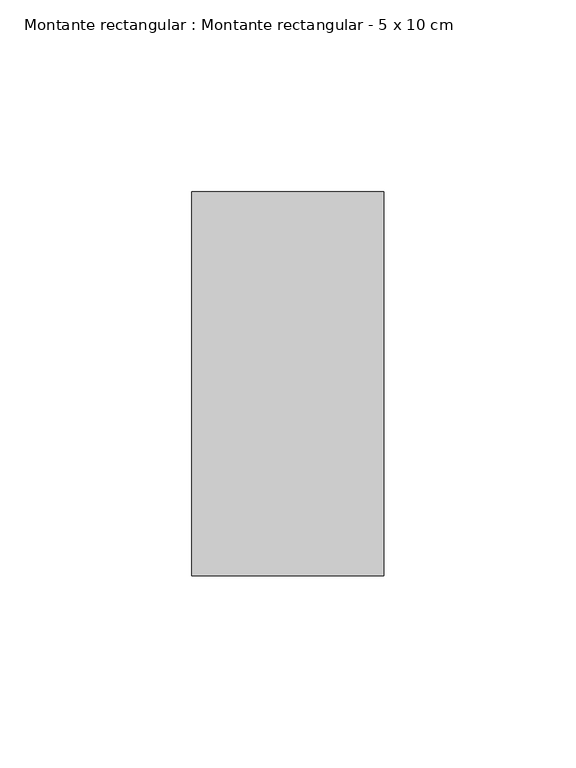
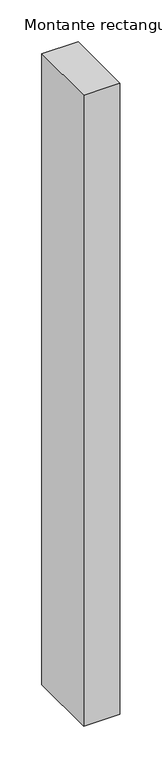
"""IFC4 building model written with IfcOpenShell, lengths in millimetres: member geometry, Montante rectangular : Montante rectangular - 5 x 10 cm."""

from ifc_helpers import new_model, si_unit, frame, origin, place, context, project, spatial, polyline, outline, extrude, source, transform, mapped, element, save


def montante_rectangular_montante_rectangular_5_x_10_cm_e2df6bc7(model_context):
    return source(origin(), model_context, "Body", "SweptSolid", [
        extrude(outline(polyline([(25.0, 50.0), (25.0, -50.0), (-25.0, -50.0), (-25.0, 50.0), (25.0, 50.0)])), frame((0.0, 0.0, -919.8281106), z_axis=(0.0, 0.0, 1.0), x_axis=(1.0, 0.0, 0.0)), (0.0, 0.0, 1.0), 919.8281106),
    ])


if __name__ == "__main__":
    model = new_model("IFC4")
    model_context = context("Model", 3, world=origin())
    ifc_project = project(units=[si_unit("LENGTHUNIT", "METRE", prefix="MILLI")], contexts=[model_context])
    site = spatial("IfcSite", under=ifc_project)
    building = spatial("IfcBuilding", under=site)
    placement = place(None, origin())
    montante_rectangular_montante_rectangular_5_x_10_cm_shape = montante_rectangular_montante_rectangular_5_x_10_cm_e2df6bc7(model_context)
    element("IfcMember", 1, ObjectType="Montante rectangular : Montante rectangular - 5 x 10 cm", at=placement, inside=building, context=model_context, shape_type="MappedRepresentation", body=[
        mapped(montante_rectangular_montante_rectangular_5_x_10_cm_shape, transform((0.0, 0.0, 0.0), x_axis=(1.0, 0.0, 0.0), y_axis=(0.0, 1.0, 0.0), z_axis=(0.0, 0.0, 1.0))),
    ])
    save(model, "model.ifc")
